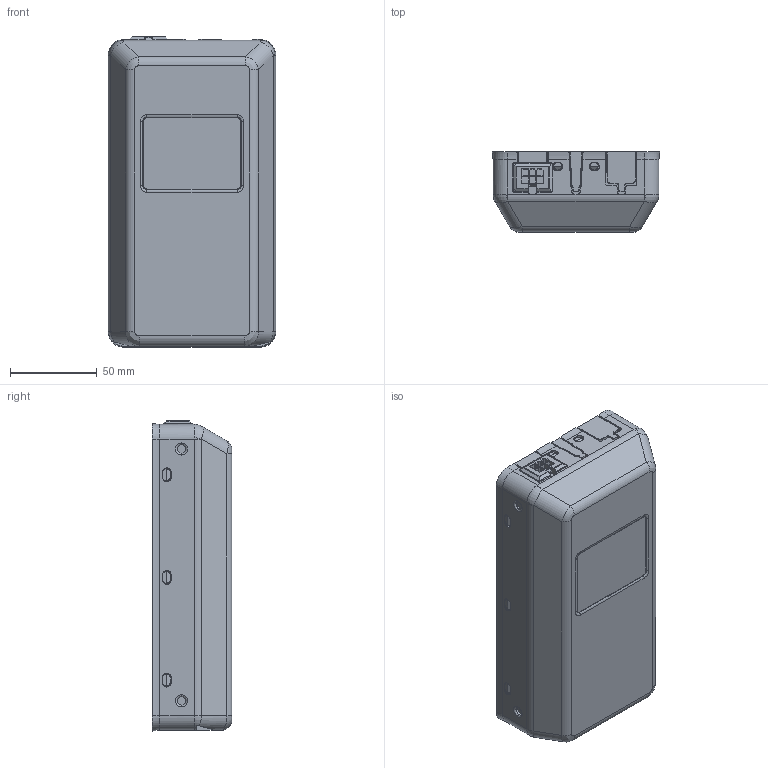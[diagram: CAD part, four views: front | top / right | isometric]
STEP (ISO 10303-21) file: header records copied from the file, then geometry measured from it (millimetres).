
FILE_DESCRIPTION((''),'2;1');
FILE_NAME('1041W7906-A-00-1','2020-08-21T08:59:22',('mbes'),(''),'CREO PARAMETRIC BY PTC INC, 2019344','CREO PARAMETRIC BY PTC INC, 2019344','');
FILE_SCHEMA(('AUTOMOTIVE_DESIGN { 1 0 10303 214 1 1 1 1 }'));
Length unit declared in the file: millimetre
Products named in the file (1): 1041W7906-A-00-1
Bounding box: 96.5 x 46 x 178.6 mm (x, y, z)
Volume: 718371.6 mm3; surface area: 58319.4 mm2
Topology: 1 solids, 5 shells, 633 faces, 1590 edges, 988 vertices
Faces by surface type: plane 290, cylinder 241, torus 44, bspline 40, sphere 14, cone 4
Entity records: 23506 total; most frequent: CARTESIAN_POINT 7541, ORIENTED_EDGE 3180, DIRECTION 2948, EDGE_CURVE 1590, AXIS2_PLACEMENT_3D 1011, VERTEX_POINT 988, VECTOR 926, LINE 926
